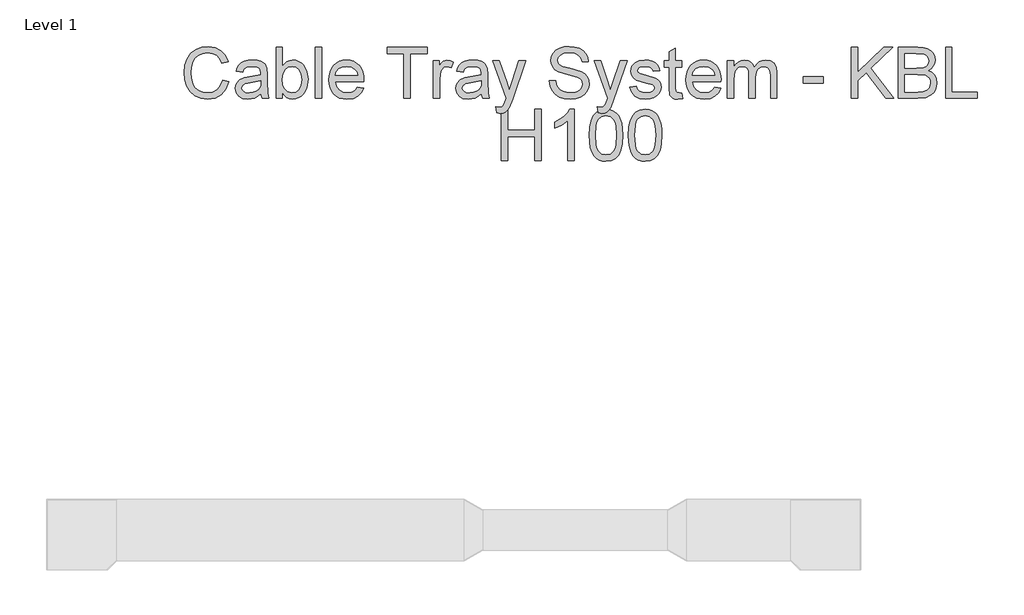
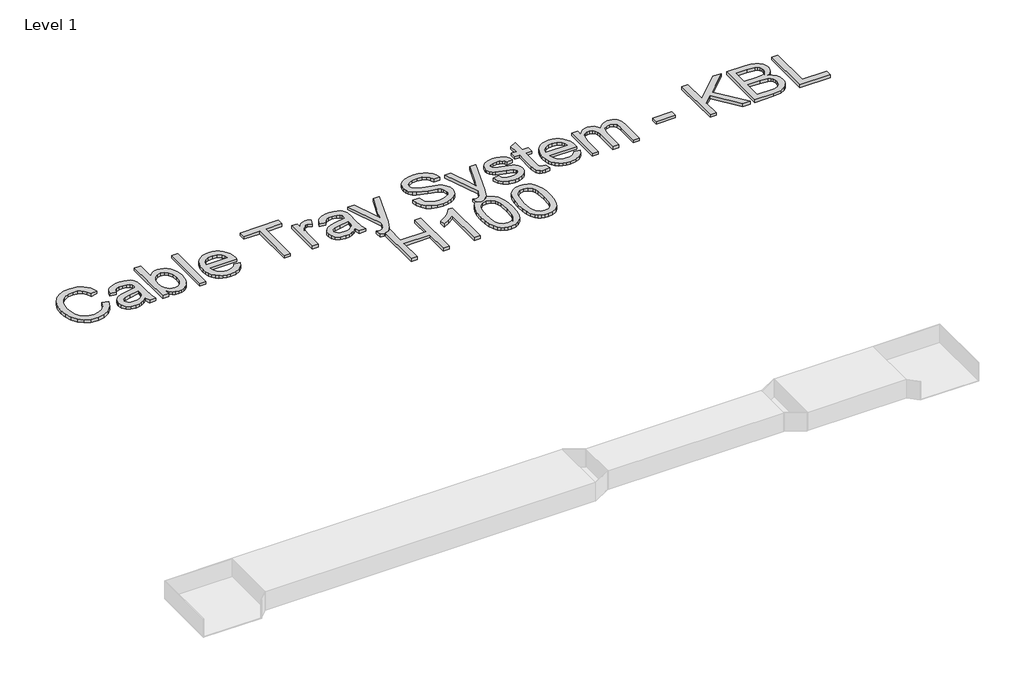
# One storey, part 97 of 106: 1 proxy.
"""IFC4 building model written with IfcOpenShell, lengths in millimetres."""

from ifc_helpers import new_model, si_unit, origin, origin_with_axes, place, context, project, spatial, polyline, outline, extrude, element, save

model = new_model("IFC4")

# Units and contexts
model_context = context("Model", 3, world=origin())
ifc_project = project(units=[si_unit("LENGTHUNIT", "METRE", prefix="MILLI")], contexts=[model_context])

# Site, building, storey
site = spatial("IfcSite", under=ifc_project)
building = spatial("IfcBuilding", under=site)
storey = spatial("IfcBuildingStorey", under=building, Name="Level 1", Elevation=0.0)

# Proxy
placement = place(None, origin())
element("IfcBuildingElementProxy", 1, Name="250mm Arial 3", ObjectType="250mm Arial 3", at=placement, inside=storey, context=model_context, shape_type="SweptSolid", body=[
    extrude(outline(polyline([(157671.4008625, 60192.4106539), (157702.7934594, 60184.31725), (157688.3081059, 60147.7359841), (157665.5760642, 60121.01089), (157635.716309, 60104.6631338), (157599.8478144, 60099.2138818), (157563.4351611, 60103.3372258), (157534.5181035, 60115.7072579), (157512.3532132, 60135.8947824), (157496.1970623, 60163.4706036), (157486.3332263, 60195.8902044), (157483.045281, 60230.6090677), (157486.762422, 60267.2286547), (157497.9138449, 60298.8511778), (157515.9170701, 60324.472626), (157540.1896175, 60343.0889877), (157568.9763837, 60354.4243517), (157600.5222648, 60358.2028064), (157634.9422239, 60353.3130415), (157663.3994291, 60338.643747), (157685.0048321, 60315.0992993), (157698.8693848, 60283.584075), (157667.4767879, 60276.1038078), (157656.5936122, 60298.9967978), (157641.7250482, 60314.7007605), (157622.687155, 60323.7828472), (157599.2959914, 60326.8102095), (157572.3333069, 60323.4532863), (157550.1837451, 60313.3825166), (157533.3761364, 60297.6555613), (157522.4393113, 60277.3300811), (157516.4382362, 60254.3527848), (157514.4378779, 60230.6703814), (157516.8061182, 60201.6690174), (157523.9108393, 60176.5917281), (157536.0202883, 60156.3965394), (157553.4027125, 60142.0414774), (157574.2416947, 60133.4652284), (157596.7208175, 60130.6064787), (157622.9247454, 60134.4998965), (157644.7600747, 60146.1801498), (157661.2457866, 60165.5246114), (157671.4008625, 60192.4106539)])), origin_with_axes(), (0.0, 0.0, 1.0), 15.0),
    extrude(outline(polyline([(157859.756444, 60126.6824041), (157844.7575885, 60113.8218627), (157829.3142089, 60105.406562), (157813.0737517, 60100.7620518), (157795.6836632, 60099.2138818), (157769.4490784, 60102.938687), (157750.0969526, 60114.1131026), (157738.1637804, 60131.0816596), (157734.1860563, 60152.1888891), (157735.6882412, 60165.2027147), (157740.1947956, 60177.0209238), (157755.9830646, 60195.0471415), (157777.9640138, 60205.3478374), (157805.1259677, 60210.0689897), (157859.572503, 60220.8601949), (157859.756444, 60227.8499528), (157857.5951373, 60241.8601254), (157851.1112171, 60251.0265185), (157836.6105352, 60257.8323354), (157816.4076823, 60260.100941), (157797.7070142, 60258.591092), (157784.6472033, 60254.0615449), (157775.7413934, 60245.6845653), (157769.5027279, 60232.6324187), (157738.110131, 60236.5564933), (157743.559383, 60253.7243198), (157751.6911079, 60267.2133262), (157763.2640624, 60277.5293505), (157779.0370029, 60285.1782303), (157798.327815, 60289.914711), (157820.4543842, 60291.4935379), (157841.6765768, 60290.098652), (157858.4995139, 60285.9139943), (157871.1837785, 60279.6216794), (157879.9899538, 60271.9038217), (157889.6161993, 60250.5973228), (157891.1490409, 60223.1288005), (157891.1490409, 60184.0719953), (157892.7431963, 60129.5334895), (157898.9971902, 60103.1379564), (157867.6045933, 60103.1379564), (157859.756444, 60126.6824041)]), holes=[polyline([(157859.756444, 60189.4675979), (157809.111356, 60179.8413524), (157782.1026862, 60174.7523181), (157769.8706099, 60166.4749732), (157765.5786533, 60154.3961811), (157767.9162368, 60145.0611754), (157774.9289873, 60137.4122956), (157786.4636207, 60132.3079329), (157802.3668528, 60130.6064787), (157819.2281109, 60132.4842097), (157834.1273317, 60138.1174028), (157846.2061239, 60146.4177403), (157854.6060961, 60156.2969047), (157858.3309013, 60166.4749732), (157859.572503, 60180.5771164), (157859.756444, 60189.4675979)])]), origin_with_axes(), (0.0, 0.0, 1.0), 15.0),
    extrude(outline(polyline([(157965.7064586, 60103.1379564), (157934.3138617, 60103.1379564), (157934.3138617, 60354.2787318), (157965.7064586, 60354.2787318), (157965.7064586, 60261.1432733), (157976.0301471, 60274.4215141), (157987.6874078, 60283.9059718), (158000.6782408, 60289.5966464), (158015.002646, 60291.4935379), (158031.1741254, 60289.7844195), (158046.4565566, 60284.6570642), (158059.9762199, 60276.4333687), (158070.8593956, 60265.4352299), (158085.8505869, 60235.5448178), (158091.2768463, 60198.1128248), (158085.6589817, 60156.2049342), (158078.6366509, 60139.2746982), (158068.8053878, 60125.0269351), (158057.0044232, 60113.7337243), (158044.0729878, 60105.6671451), (158030.0110818, 60100.8271976), (158014.818705, 60099.2138818), (158000.022951, 60101.2947143), (157986.9056586, 60107.5372119), (157975.4668278, 60117.9413746), (157965.7064586, 60132.5072023), (157965.7064586, 60103.1379564)]), holes=[polyline([(157965.7064586, 60196.6412968), (157967.8524369, 60170.4603615), (157974.2903719, 60152.7407121), (157990.7377627, 60136.140037), (158012.1209037, 60130.6064787), (158030.239092, 60134.6838375), (158045.7207926, 60146.9159138), (158056.3433852, 60167.2260656), (158059.8842494, 60195.5376509), (158056.4890052, 60224.2631033), (158046.3032724, 60244.3433289), (158031.3044169, 60256.161538), (158013.4698043, 60260.100941), (157995.3516161, 60256.0235822), (157979.8699154, 60243.7915059), (157969.2473228, 60223.8492361), (157965.7064586, 60196.6412968)])]), origin_with_axes(), (0.0, 0.0, 1.0), 15.0),
    extrude(outline(polyline([(158126.5935179, 60103.1379564), (158126.5935179, 60354.2787318), (158157.9861148, 60354.2787318), (158157.9861148, 60103.1379564), (158126.5935179, 60103.1379564)])), origin_with_axes(), (0.0, 0.0, 1.0), 15.0),
    extrude(outline(polyline([(158334.2015905, 60158.075001), (158364.9810507, 60154.1509264), (158353.8909414, 60130.9590323), (158336.1942846, 60113.6225933), (158312.2896191, 60102.8160596), (158282.5754838, 60099.2138818), (158263.0968986, 60100.7678), (158245.741299, 60105.4295547), (158230.5086852, 60113.1991458), (158217.399057, 60124.0765733), (158206.8569386, 60137.759101), (158199.326854, 60153.9439928), (158194.8088032, 60172.6312485), (158193.3027863, 60193.8208682), (158194.8241317, 60215.7290074), (158199.3881677, 60235.0389801), (158206.9948943, 60251.7507861), (158217.6443117, 60265.8644256), (158230.7194509, 60277.0771622), (158245.6033433, 60285.0862598), (158262.2959888, 60289.8917184), (158280.7973875, 60291.4935379), (158298.702894, 60289.8955505), (158314.8954499, 60285.1015883), (158329.3750553, 60277.1116512), (158342.1417102, 60265.9257393), (158352.5631173, 60251.8427566), (158360.0069796, 60235.1616074), (158364.4732969, 60215.8822916), (158365.9620694, 60194.0048092), (158365.7781284, 60185.5435233), (158224.6953832, 60185.5435233), (158230.1293069, 60162.0450609), (158242.7522578, 60144.7699355), (158260.9700808, 60134.1473429), (158283.1886205, 60130.6064787), (158299.8965944, 60132.2466193), (158313.9680807, 60137.1670409), (158325.4030794, 60145.6743121), (158334.2015905, 60158.075001)]), holes=[polyline([(158224.6953832, 60216.9361202), (158334.5694725, 60216.9361202), (158330.3235011, 60233.5214669), (158322.000171, 60245.3856612), (158303.6980417, 60256.4221211), (158280.6747602, 60260.100941), (158259.5138812, 60257.1655493), (158242.0164938, 60248.359374), (158229.8533954, 60234.632777), (158224.6953832, 60216.9361202)])]), origin_with_axes(), (0.0, 0.0, 1.0), 15.0),
    extrude(outline(polyline([(158562.1658001, 60103.1379564), (158562.1658001, 60322.8861348), (158479.7602332, 60322.8861348), (158479.7602332, 60354.2787318), (158675.963964, 60354.2787318), (158675.963964, 60322.8861348), (158593.5583971, 60322.8861348), (158593.5583971, 60103.1379564), (158562.1658001, 60103.1379564)])), origin_with_axes(), (0.0, 0.0, 1.0), 15.0),
    extrude(outline(polyline([(158707.3565609, 60103.1379564), (158707.3565609, 60287.5694633), (158734.8250832, 60287.5694633), (158734.8250832, 60260.284882), (158744.9724949, 60276.1038078), (158754.322829, 60285.423485), (158773.943202, 60291.4935379), (158789.5781868, 60289.0716481), (158805.4584263, 60281.8059787), (158794.9737894, 60253.6630061), (158772.9008697, 60260.100941), (158763.527543, 60258.5527709), (158755.1505635, 60253.9082608), (158743.8381921, 60236.7404343), (158738.7491578, 60200.0748621), (158738.7491578, 60103.1379564), (158707.3565609, 60103.1379564)])), origin_with_axes(), (0.0, 0.0, 1.0), 15.0),
    extrude(outline(polyline([(158942.8010378, 60126.6824041), (158927.8021823, 60113.8218627), (158912.3588027, 60105.406562), (158896.1183455, 60100.7620518), (158878.728257, 60099.2138818), (158852.4936722, 60102.938687), (158833.1415464, 60114.1131026), (158821.2083742, 60131.0816596), (158817.2306501, 60152.1888891), (158818.732835, 60165.2027147), (158823.2393894, 60177.0209238), (158839.0276584, 60195.0471415), (158861.0086076, 60205.3478374), (158888.1705615, 60210.0689897), (158942.6170968, 60220.8601949), (158942.8010378, 60227.8499528), (158940.6397311, 60241.8601254), (158934.1558109, 60251.0265185), (158919.655129, 60257.8323354), (158899.4522761, 60260.100941), (158880.751608, 60258.591092), (158867.6917971, 60254.0615449), (158858.7859872, 60245.6845653), (158852.5473217, 60232.6324187), (158821.1547248, 60236.5564933), (158826.6039768, 60253.7243198), (158834.7357017, 60267.2133262), (158846.3086562, 60277.5293505), (158862.0815967, 60285.1782303), (158881.3724088, 60289.914711), (158903.498978, 60291.4935379), (158924.7211706, 60290.098652), (158941.5441077, 60285.9139943), (158954.2283723, 60279.6216794), (158963.0345476, 60271.9038217), (158972.6607931, 60250.5973228), (158974.1936347, 60223.1288005), (158974.1936347, 60184.0719953), (158975.7877901, 60129.5334895), (158982.041784, 60103.1379564), (158950.6491871, 60103.1379564), (158942.8010378, 60126.6824041)]), holes=[polyline([(158942.8010378, 60189.4675979), (158892.1559498, 60179.8413524), (158865.14728, 60174.7523181), (158852.9152037, 60166.4749732), (158848.6232471, 60154.3961811), (158850.9608306, 60145.0611754), (158857.9735811, 60137.4122956), (158869.5082145, 60132.3079329), (158885.4114466, 60130.6064787), (158902.2727047, 60132.4842097), (158917.1719255, 60138.1174028), (158929.2507177, 60146.4177403), (158937.6506899, 60156.2969047), (158941.3754951, 60166.4749732), (158942.6170968, 60180.5771164), (158942.8010378, 60189.4675979)])]), origin_with_axes(), (0.0, 0.0, 1.0), 15.0),
    extrude(outline(polyline([(159017.3584555, 60032.5046133), (159013.4343809, 60062.7322506), (159029.375934, 60059.9731356), (159044.2751548, 60063.4373577), (159053.410891, 60073.0942601), (159061.9948043, 60096.2095122), (159064.4473509, 60103.8124067), (158997.7380824, 60287.5694633), (159030.7861483, 60287.5694633), (159066.2254472, 60185.1143277), (159078.549494, 60144.1567989), (159090.8735409, 60180.3931754), (159127.2325447, 60287.5694633), (159160.035356, 60287.5694633), (159095.8399478, 60098.7233725), (159079.1626307, 60057.7658437), (159070.6247027, 60044.6907044), (159060.9524719, 60035.6316103), (159049.7320711, 60030.3433066), (159036.5496329, 60028.5805387), (159017.3584555, 60032.5046133)])), origin_with_axes(), (0.0, 0.0, 1.0), 15.0),
    extrude(outline(polyline([(159276.3473801, 60189.4675979), (159307.739977, 60189.4675979), (159311.3421549, 60172.0468526), (159317.8567319, 60158.0443442), (159328.019472, 60146.9312422), (159342.5661392, 60138.1787164), (159360.3471023, 60132.4995381), (159380.2127301, 60130.6064787), (159397.7024533, 60132.0396856), (159413.0155413, 60136.3393065), (159425.4238945, 60143.1451234), (159434.1994129, 60152.0969186), (159439.4187387, 60162.3746218), (159441.158514, 60173.1581628), (159435.9468524, 60192.7478791), (159428.0067326, 60200.4963936), (159414.6096966, 60207.0033064), (159368.9003587, 60218.990128), (159319.6961419, 60234.4718287), (159304.0688213, 60245.0331076), (159292.9940404, 60257.8323354), (159286.3951571, 60272.5936004), (159284.1955293, 60289.0409913), (159286.9163233, 60307.4274268), (159295.078705, 60324.5722607), (159308.4680768, 60339.1035995), (159326.8698408, 60349.64955), (159348.9580889, 60356.0644923), (159373.4069132, 60358.2028064), (159399.8944168, 60355.9648576), (159423.0709825, 60349.2510112), (159442.1088758, 60338.1992229), (159456.1803621, 60322.9474485), (159465.0861721, 60304.4460498), (159468.6270363, 60283.6453887), (159437.2344393, 60283.6453887), (159431.4709548, 60302.3767136), (159419.4534762, 60315.8963769), (159400.6761661, 60324.0817513), (159374.6331865, 60326.8102095), (159347.9770703, 60324.1124082), (159329.6902694, 60316.0190043), (159319.1136621, 60304.1088247), (159315.5881263, 60289.9606963), (159318.0866582, 60277.8972325), (159325.5822538, 60268.1943449), (159343.3019032, 60259.5184612), (159376.8404785, 60250.6586365), (159432.3906597, 60234.9010243), (159450.286586, 60223.5120109), (159462.7715812, 60209.455853), (159470.1062285, 60192.8858348), (159472.5511109, 60173.9552405), (159469.7383465, 60154.6031147), (159461.3000532, 60136.4006201), (159447.5811205, 60120.7349785), (159428.9264376, 60108.9934115), (159406.4933001, 60101.6587642), (159381.4390034, 60099.2138818), (159350.6825358, 60101.8503694), (159325.367656, 60109.7598323), (159305.2031241, 60122.9729273), (159289.8977003, 60141.5203112), (159280.0721853, 60164.1143971), (159276.3473801, 60189.4675979)])), origin_with_axes(), (0.0, 0.0, 1.0), 15.0),
    extrude(outline(polyline([(159515.7159316, 60032.5046133), (159511.791857, 60062.7322506), (159527.7334102, 60059.9731356), (159542.632631, 60063.4373577), (159551.7683672, 60073.0942601), (159560.3522804, 60096.2095122), (159562.804827, 60103.8124067), (159496.0955586, 60287.5694633), (159529.1436245, 60287.5694633), (159564.5829233, 60185.1143277), (159576.9069702, 60144.1567989), (159589.231017, 60180.3931754), (159625.5900209, 60287.5694633), (159658.3928321, 60287.5694633), (159594.197424, 60098.7233725), (159577.5201068, 60057.7658437), (159568.9821789, 60044.6907044), (159559.3099481, 60035.6316103), (159548.0895472, 60030.3433066), (159534.9071091, 60028.5805387), (159515.7159316, 60032.5046133)])), origin_with_axes(), (0.0, 0.0, 1.0), 15.0),
    extrude(outline(polyline([(159672.6789163, 60158.075001), (159704.0715132, 60161.9990756), (159709.0225917, 60148.5713828), (159718.602852, 60138.6998826), (159732.8736077, 60132.6298297), (159751.8961725, 60130.6064787), (159770.6888111, 60132.4612171), (159783.9019061, 60138.0254323), (159791.7193985, 60146.0881793), (159794.3252293, 60155.4385134), (159791.7040701, 60163.4399468), (159783.8405925, 60169.5406565), (159751.5282906, 60178.4924517), (159704.2554542, 60193.851525), (159692.2916251, 60201.5693827), (159683.6234056, 60211.7857723), (159678.3580946, 60223.8492361), (159676.6029909, 60237.1083163), (159682.2438481, 60260.4994798), (159697.6335783, 60278.3724134), (159717.5911765, 60287.6614338), (159744.5998463, 60291.4935379), (159765.0326255, 60289.9530321), (159782.7982601, 60285.3315145), (159797.0843443, 60278.0811735), (159807.0784718, 60268.6541974), (159813.7003477, 60256.3531432), (159817.869677, 60240.4805679), (159786.4770801, 60236.5564933), (159782.5146844, 60246.4356577), (159774.6741994, 60253.8776039), (159762.8789829, 60258.5451067), (159747.0523929, 60260.100941), (159729.0261752, 60258.6140846), (159717.0086967, 60254.1535154), (159710.248865, 60247.7155805), (159707.9955878, 60240.2966269), (159711.7357214, 60231.1608907), (159723.4466316, 60224.2324465), (159750.4859582, 60217.5492569), (159796.5631781, 60202.7726634), (159808.7339408, 60195.7062634), (159817.9616475, 60186.0340326), (159823.7787816, 60173.7253142), (159825.7178262, 60158.7494513), (159823.4415564, 60143.2677507), (159816.6127469, 60128.7057551), (159805.4919807, 60116.2054314), (159790.339841, 60106.9087468), (159772.0377118, 60101.137598), (159751.4669769, 60099.2138818), (159719.8137969, 60102.9233586), (159696.7138733, 60114.0517889), (159681.2934863, 60132.4765455), (159672.6789163, 60158.075001)])), origin_with_axes(), (0.0, 0.0, 1.0), 15.0),
    extrude(outline(polyline([(159927.7437662, 60129.3188917), (159931.6678409, 60102.2182514), (159908.1847068, 60099.2138818), (159893.1168734, 60100.5167972), (159881.8811442, 60104.4255434), (159868.7600197, 60118.0984909), (159864.9585724, 60153.7217307), (159864.9585724, 60256.1768664), (159841.4141247, 60256.1768664), (159841.4141247, 60287.5694633), (159864.9585724, 60287.5694633), (159864.9585724, 60332.3897531), (159896.3511693, 60350.8451665), (159896.3511693, 60287.5694633), (159927.7437662, 60287.5694633), (159927.7437662, 60256.1768664), (159896.3511693, 60256.1768664), (159896.3511693, 60154.6414357), (159898.0066383, 60138.4546279), (159903.3715841, 60132.7218002), (159914.0708188, 60130.6064787), (159927.7437662, 60129.3188917)])), origin_with_axes(), (0.0, 0.0, 1.0), 15.0),
    extrude(outline(polyline([(160088.2629435, 60158.075001), (160119.0424037, 60154.1509264), (160107.9522944, 60130.9590323), (160090.2556376, 60113.6225933), (160066.3509721, 60102.8160596), (160036.6368368, 60099.2138818), (160017.1582516, 60100.7678), (159999.802652, 60105.4295547), (159984.5700382, 60113.1991458), (159971.46041, 60124.0765733), (159960.9182916, 60137.759101), (159953.388207, 60153.9439928), (159948.8701562, 60172.6312485), (159947.3641393, 60193.8208682), (159948.8854847, 60215.7290074), (159953.4495207, 60235.0389801), (159961.0562473, 60251.7507861), (159971.7056647, 60265.8644256), (159984.7808039, 60277.0771622), (159999.6646963, 60285.0862598), (160016.3573418, 60289.8917184), (160034.8587405, 60291.4935379), (160052.764247, 60289.8955505), (160068.9568029, 60285.1015883), (160083.4364083, 60277.1116512), (160096.2030632, 60265.9257393), (160106.6244703, 60251.8427566), (160114.0683326, 60235.1616074), (160118.5346499, 60215.8822916), (160120.0234224, 60194.0048092), (160119.8394814, 60185.5435233), (159978.7567362, 60185.5435233), (159984.1906599, 60162.0450609), (159996.8136108, 60144.7699355), (160015.0314338, 60134.1473429), (160037.2499735, 60130.6064787), (160053.9579474, 60132.2466193), (160068.0294337, 60137.1670409), (160079.4644324, 60145.6743121), (160088.2629435, 60158.075001)]), holes=[polyline([(159978.7567362, 60216.9361202), (160088.6308255, 60216.9361202), (160084.3848541, 60233.5214669), (160076.061524, 60245.3856612), (160057.7593947, 60256.4221211), (160034.7361132, 60260.100941), (160013.5752342, 60257.1655493), (159996.0778468, 60248.359374), (159983.9147484, 60234.632777), (159978.7567362, 60216.9361202)])]), origin_with_axes(), (0.0, 0.0, 1.0), 15.0),
    extrude(outline(polyline([(160151.4160193, 60103.1379564), (160151.4160193, 60287.5694633), (160182.8086162, 60287.5694633), (160182.8086162, 60257.2191987), (160192.2509208, 60271.1603935), (160204.3910266, 60282.0818902), (160218.8150665, 60289.140626), (160235.1091732, 60291.4935379), (160252.5682396, 60289.0946407), (160266.5630838, 60281.8979492), (160277.0170638, 60270.3786442), (160283.8535376, 60255.0119067), (160295.2962005, 60270.9726204), (160308.3483471, 60282.3731301), (160323.0099774, 60289.213436), (160339.2810915, 60291.4935379), (160362.8791887, 60287.6997549), (160380.3305908, 60276.3184056), (160391.1141318, 60257.0429219), (160394.7086455, 60229.5667354), (160394.7086455, 60103.1379564), (160363.3160485, 60103.1379564), (160363.3160485, 60216.0777289), (160360.4036494, 60242.2893211), (160349.8576989, 60255.1958477), (160331.9234516, 60260.100941), (160314.9165735, 60256.9586156), (160301.0520208, 60247.5316395), (160291.8319783, 60231.1762191), (160288.7586308, 60207.248561), (160288.7586308, 60103.1379564), (160257.3660339, 60103.1379564), (160257.3660339, 60219.5726079), (160255.5496166, 60237.3229141), (160250.1003645, 60249.9841861), (160240.51244, 60257.5717523), (160226.2800053, 60260.100941), (160214.1858847, 60258.4148152), (160203.042126, 60253.3564378), (160193.8450761, 60245.048436), (160187.5910822, 60233.6134374), (160182.8086162, 60196.1507875), (160182.8086162, 60103.1379564), (160151.4160193, 60103.1379564)])), origin_with_axes(), (0.0, 0.0, 1.0), 15.0),
    extrude(outline(polyline([(160524.2031078, 60177.6953741), (160524.2031078, 60209.087971), (160622.3049731, 60209.087971), (160622.3049731, 60177.6953741), (160524.2031078, 60177.6953741)])), origin_with_axes(), (0.0, 0.0, 1.0), 15.0),
    extrude(outline(polyline([(160759.6475847, 60103.1379564), (160759.6475847, 60354.2787318), (160791.0401816, 60354.2787318), (160791.0401816, 60231.3448317), (160919.7988799, 60354.2787318), (160963.6994647, 60354.2787318), (160855.5421581, 60251.0265185), (160967.6235393, 60103.1379564), (160929.2411844, 60103.1379564), (160833.2852974, 60229.8119901), (160791.0401816, 60189.4675979), (160791.0401816, 60103.1379564), (160759.6475847, 60103.1379564)])), origin_with_axes(), (0.0, 0.0, 1.0), 15.0),
    extrude(outline(polyline([(160991.167987, 60103.1379564), (160991.167987, 60354.2787318), (161087.0012467, 60354.2787318), (161113.3584588, 60352.4316576), (161133.9368579, 60346.890435), (161149.7097985, 60337.5171084), (161161.6506349, 60324.1737218), (161169.1692232, 60308.4774234), (161171.6754193, 60292.0453609), (161169.567762, 60276.9238781), (161163.2447902, 60262.7067718), (161152.6605186, 60250.2677618), (161137.768962, 60240.4805679), (161155.5575894, 60231.1915475), (161168.7017065, 60217.0587476), (161176.818103, 60199.0172014), (161179.5235685, 60178.0019424), (161177.6764943, 60160.4892266), (161172.1352718, 60144.2487694), (161163.8655911, 60130.4378661), (161153.8331425, 60120.2138123), (161126.5179044, 60107.4605698), (161086.2654827, 60103.1379564), (160991.167987, 60103.1379564)]), holes=[polyline([(161022.5605839, 60252.2527918), (161079.8888615, 60252.2527918), (161113.366123, 60254.9505931), (161125.0846974, 60259.6027675), (161133.5076623, 60266.5695328), (161138.5890323, 60275.74359), (161140.2828223, 60287.0176403), (161138.7039955, 60297.9621297), (161133.9675148, 60307.4964047), (161126.2879781, 60314.9383509), (161115.8799833, 60319.6058537), (161075.5355912, 60322.8861348), (161022.5605839, 60322.8861348), (161022.5605839, 60252.2527918)]), polyline([(161022.5605839, 60134.5305533), (161086.939933, 60134.5305533), (161110.2391261, 60135.7568266), (161129.9514696, 60142.5933004), (161143.0112805, 60156.5421594), (161148.1309716, 60177.6953741), (161146.6287868, 60190.8164986), (161142.1222323, 60202.0982131), (161134.2510905, 60210.9197168), (161122.6551434, 60216.6602087), (161083.8742498, 60220.8601949), (161022.5605839, 60220.8601949), (161022.5605839, 60134.5305533)])]), origin_with_axes(), (0.0, 0.0, 1.0), 15.0),
    extrude(outline(polyline([(161222.6883893, 60103.1379564), (161222.6883893, 60354.2787318), (161254.0809862, 60354.2787318), (161254.0809862, 60134.5305533), (161379.6513739, 60134.5305533), (161379.6513739, 60103.1379564), (161222.6883893, 60103.1379564)])), origin_with_axes(), (0.0, 0.0, 1.0), 15.0),
    extrude(outline(polyline([(159040.9029032, 59798.2009118), (159040.9029032, 60049.3416872), (159072.2955001, 60049.3416872), (159072.2955001, 59947.3157472), (159205.714037, 59947.3157472), (159205.714037, 60049.3416872), (159237.106634, 60049.3416872), (159237.106634, 59798.2009118), (159205.714037, 59798.2009118), (159205.714037, 59915.9231502), (159072.2955001, 59915.9231502), (159072.2955001, 59798.2009118), (159040.9029032, 59798.2009118)])), origin_with_axes(), (0.0, 0.0, 1.0), 15.0),
    extrude(outline(polyline([(159397.9936932, 59798.2009118), (159366.6010963, 59798.2009118), (159366.6010963, 59993.9141332), (159336.8639683, 59972.7302617), (159303.8159024, 59956.880679), (159303.8159024, 59986.5564933), (159328.4716603, 59999.9688577), (159349.8318087, 60015.9257393), (159366.6700741, 60032.8942963), (159377.7601835, 60049.3416872), (159397.9936932, 60049.3416872), (159397.9936932, 59798.2009118)])), origin_with_axes(), (0.0, 0.0, 1.0), 15.0),
    extrude(outline(polyline([(159472.5511109, 59921.7479485), (159474.8580376, 59961.9467207), (159481.7788176, 59994.0061037), (159493.2444731, 60018.4166069), (159509.1860262, 60035.6687397), (159529.7184401, 60045.9234503), (159554.9566778, 60049.3416872), (159574.3011394, 60047.3183362), (159591.62225, 60041.2482833), (159606.1076035, 60031.3691189), (159616.944794, 60017.9184334), (159631.6600738, 59980.7623519), (159635.936702, 59955.0489333), (159637.3622447, 59921.7479485), (159635.0783107, 59881.7791026), (159628.2265085, 59849.7963616), (159616.8298309, 59825.3628658), (159600.9112704, 59808.0417552), (159580.3328713, 59797.7180667), (159554.9566778, 59794.2768372), (159537.666224, 59795.7713578), (159522.3378076, 59800.2549196), (159508.9714284, 59807.7275226), (159497.5670866, 59818.1891669), (159486.6225972, 59837.1006007), (159478.8051048, 59860.6642089), (159474.1146094, 59888.8799915), (159472.5511109, 59921.7479485)]), holes=[polyline([(159503.9437078, 59921.8092622), (159507.6225278, 59872.4287685), (159512.2210527, 59855.5387696), (159518.6589876, 59843.848936), (159535.0910501, 59830.2143096), (159554.9566778, 59825.6694341), (159574.8223055, 59830.229638), (159591.254368, 59843.9102497), (159597.6923029, 59855.6192438), (159602.2908278, 59872.5054106), (159605.9696478, 59921.8092622), (159602.4134552, 59970.0784456), (159597.9682144, 59986.912879), (159591.7448773, 59998.8805402), (159575.3434717, 60013.1819527), (159554.5887958, 60017.9490902), (159534.9377659, 60013.7491041), (159519.1494969, 60001.1491458), (159512.4969642, 59988.1199918), (159507.7451551, 59970.5536265), (159503.9437078, 59921.8092622)])]), origin_with_axes(), (0.0, 0.0, 1.0), 15.0),
    extrude(outline(polyline([(159664.830767, 59921.7479485), (159667.1376937, 59961.9467207), (159674.0584737, 59994.0061037), (159685.5241293, 60018.4166069), (159701.4656824, 60035.6687397), (159721.9980962, 60045.9234503), (159747.2363339, 60049.3416872), (159766.5807955, 60047.3183362), (159783.9019061, 60041.2482833), (159798.3872597, 60031.3691189), (159809.2244501, 60017.9184334), (159823.9397299, 59980.7623519), (159828.2163581, 59955.0489333), (159829.6419009, 59921.7479485), (159827.3579668, 59881.7791026), (159820.5061647, 59849.7963616), (159809.109487, 59825.3628658), (159793.1909265, 59808.0417552), (159772.6125274, 59797.7180667), (159747.2363339, 59794.2768372), (159729.9458802, 59795.7713578), (159714.6174637, 59800.2549196), (159701.2510845, 59807.7275226), (159689.8467427, 59818.1891669), (159678.9022533, 59837.1006007), (159671.0847609, 59860.6642089), (159666.3942655, 59888.8799915), (159664.830767, 59921.7479485)]), holes=[polyline([(159696.2233639, 59921.8092622), (159699.9021839, 59872.4287685), (159704.5007088, 59855.5387696), (159710.9386438, 59843.848936), (159727.3707062, 59830.2143096), (159747.2363339, 59825.6694341), (159767.1019617, 59830.229638), (159783.5340241, 59843.9102497), (159789.9719591, 59855.6192438), (159794.570484, 59872.5054106), (159798.2493039, 59921.8092622), (159794.6931113, 59970.0784456), (159790.2478705, 59986.912879), (159784.0245335, 59998.8805402), (159767.6231278, 60013.1819527), (159746.8684519, 60017.9490902), (159727.217422, 60013.7491041), (159711.4291531, 60001.1491458), (159704.7766203, 59988.1199918), (159700.0248112, 59970.5536265), (159696.2233639, 59921.8092622)])]), origin_with_axes(), (0.0, 0.0, 1.0), 15.0),
])

save(model, "model.ifc")
